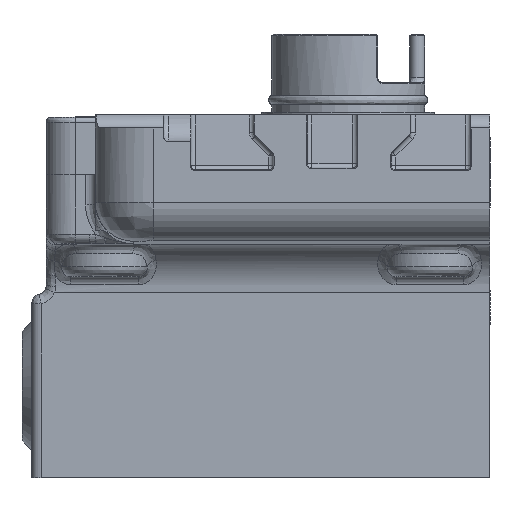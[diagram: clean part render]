
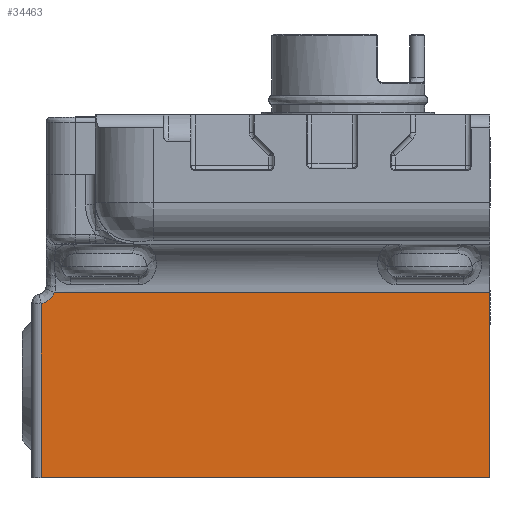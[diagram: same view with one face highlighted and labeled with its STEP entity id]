
A CAD part, left-side view. The second image highlights one B-rep face of the part: STEP entity #34463.
In plain terms, the highlighted planar face has unit normal (-1, 0, 0).
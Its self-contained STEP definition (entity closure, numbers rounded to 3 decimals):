
#755 = CARTESIAN_POINT ( 'NONE',  ( 17.54, 39.14, 35.455 ) ) ;
#1630 = VERTEX_POINT ( 'NONE', #12894 ) ;
#3114 = ORIENTED_EDGE ( 'NONE', *, *, #18150, .F. ) ;
#6997 = EDGE_CURVE ( 'NONE', #49880, #12296, #36137, .T. ) ;
#8675 = ORIENTED_EDGE ( 'NONE', *, *, #41617, .F. ) ;
#10430 = CARTESIAN_POINT ( 'NONE',  ( 17.54, 39.14, 35.455 ) ) ;
#12120 = CARTESIAN_POINT ( 'NONE',  ( 17.54, 39.14, 16.925 ) ) ;
#12296 = VERTEX_POINT ( 'NONE', #60720 ) ;
#12894 = CARTESIAN_POINT ( 'NONE',  ( 17.54, -7.36, 36.636 ) ) ;
#13833 = EDGE_CURVE ( 'NONE', #50378, #1630, #60147, .T. ) ;
#14015 = LINE ( 'NONE', #47517, #26919 ) ;
#16078 = CARTESIAN_POINT ( 'NONE',  ( 17.54, 40.14, 16.925 ) ) ;
#18150 = EDGE_CURVE ( 'NONE', #1630, #49880, #14015, .T. ) ;
#19286 = LINE ( 'NONE', #12120, #59833 ) ;
#19803 = ORIENTED_EDGE ( 'NONE', *, *, #13833, .F. ) ;
#21630 = DIRECTION ( 'NONE',  ( 0., 0., -1. ) ) ;
#22921 = CARTESIAN_POINT ( 'NONE',  ( 17.54, 38.032, 36.04 ) ) ;
#26255 =( BOUNDED_CURVE ( )  B_SPLINE_CURVE ( 3, ( #755, #50478, #22921, #61537 ),
 .UNSPECIFIED., .F., .F. ) 
 B_SPLINE_CURVE_WITH_KNOTS ( ( 4, 4 ),
 ( 0., 1. ),
 .UNSPECIFIED. ) 
 CURVE ( )  GEOMETRIC_REPRESENTATION_ITEM ( )  RATIONAL_B_SPLINE_CURVE ( ( 1., 0.929, 0.929, 1. ) ) 
 REPRESENTATION_ITEM ( '' )  );
#26477 = ORIENTED_EDGE ( 'NONE', *, *, #6997, .F. ) ;
#26906 = PLANE ( 'NONE',  #66605 ) ;
#26919 = VECTOR ( 'NONE', #58603, 1000. ) ;
#34463 = ADVANCED_FACE ( 'NONE', ( #52137 ), #26906, .F. ) ;
#36137 = LINE ( 'NONE', #36937, #65522 ) ;
#36937 = CARTESIAN_POINT ( 'NONE',  ( 17.54, 40.14, 17.425 ) ) ;
#39299 = CARTESIAN_POINT ( 'NONE',  ( 17.54, 40.14, 36.636 ) ) ;
#41617 = EDGE_CURVE ( 'NONE', #12296, #68415, #19286, .T. ) ;
#42511 = DIRECTION ( 'NONE',  ( 0., 1., 0. ) ) ;
#42700 = EDGE_LOOP ( 'NONE', ( #26477, #3114, #19803, #52527, #8675 ) ) ;
#44075 = CARTESIAN_POINT ( 'NONE',  ( 17.54, 37.789, 36.636 ) ) ;
#47517 = CARTESIAN_POINT ( 'NONE',  ( 17.54, -7.36, 36.636 ) ) ;
#49880 = VERTEX_POINT ( 'NONE', #56457 ) ;
#50378 = VERTEX_POINT ( 'NONE', #44075 ) ;
#50478 = CARTESIAN_POINT ( 'NONE',  ( 17.54, 38.517, 35.616 ) ) ;
#52137 = FACE_OUTER_BOUND ( 'NONE', #42700, .T. ) ;
#52527 = ORIENTED_EDGE ( 'NONE', *, *, #58797, .F. ) ;
#54664 = DIRECTION ( 'NONE',  ( 1., 0., 0. ) ) ;
#56457 = CARTESIAN_POINT ( 'NONE',  ( 17.54, -7.36, 17.425 ) ) ;
#58416 = VECTOR ( 'NONE', #67087, 1000. ) ;
#58603 = DIRECTION ( 'NONE',  ( 0., 0., -1. ) ) ;
#58797 = EDGE_CURVE ( 'NONE', #68415, #50378, #26255, .T. ) ;
#59833 = VECTOR ( 'NONE', #61515, 1000. ) ;
#60147 = LINE ( 'NONE', #39299, #58416 ) ;
#60720 = CARTESIAN_POINT ( 'NONE',  ( 17.54, 39.14, 17.425 ) ) ;
#61515 = DIRECTION ( 'NONE',  ( 0., 0., 1. ) ) ;
#61537 = CARTESIAN_POINT ( 'NONE',  ( 17.54, 37.789, 36.636 ) ) ;
#65522 = VECTOR ( 'NONE', #42511, 1000. ) ;
#66605 = AXIS2_PLACEMENT_3D ( 'NONE', #16078, #54664, #21630 ) ;
#67087 = DIRECTION ( 'NONE',  ( 0., -1., 0. ) ) ;
#68415 = VERTEX_POINT ( 'NONE', #10430 ) ;
